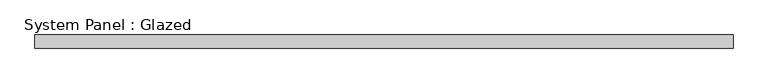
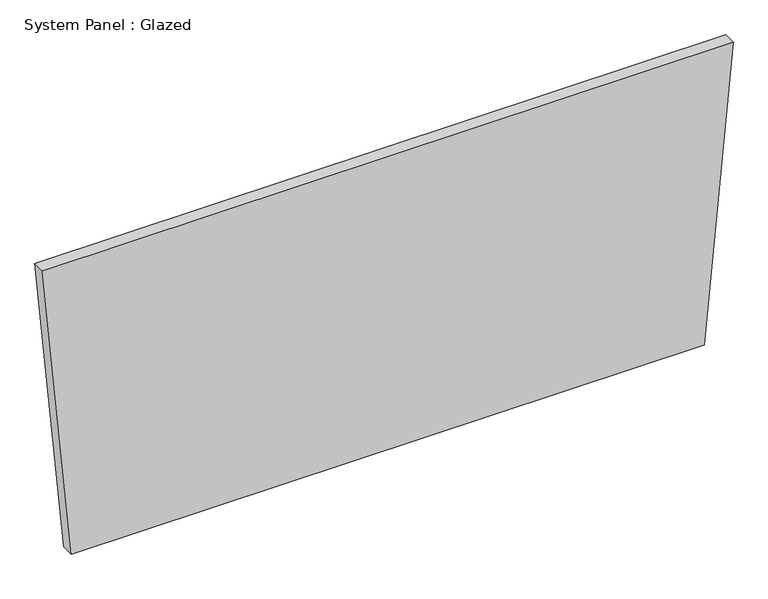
"""IFC4 building model written with IfcOpenShell, lengths in millimetres: plate geometry, System Panel : Glazed."""

from ifc_helpers import new_model, si_unit, frame, origin, place, context, project, spatial, polyline, outline, extrude, source, transform, mapped, element, save


def system_panel_glazed_fbbb24ac(model_context):
    return source(origin(), model_context, "Body", "SweptSolid", [
        extrude(outline(polyline([(0.0, -618.6363794), (0.0, 618.6363794), (606.9410625, 675.510861), (606.9410625, -675.510861), (0.0, -618.6363794)])), frame((0.0, -44.45, 0.0), z_axis=(0.0, 1.0, 0.0), x_axis=(0.0, 0.0, 1.0)), (0.0, 0.0, 1.0), 25.4),
    ])


if __name__ == "__main__":
    model = new_model("IFC4")
    model_context = context("Model", 3, world=origin())
    ifc_project = project(units=[si_unit("LENGTHUNIT", "METRE", prefix="MILLI")], contexts=[model_context])
    site = spatial("IfcSite", under=ifc_project)
    building = spatial("IfcBuilding", under=site)
    placement = place(None, origin())
    system_panel_glazed_shape = system_panel_glazed_fbbb24ac(model_context)
    element("IfcPlate", 1, ObjectType="System Panel : Glazed", at=placement, inside=building, context=model_context, shape_type="MappedRepresentation", body=[
        mapped(system_panel_glazed_shape, transform((0.0, 0.0, 0.0), x_axis=(1.0, 0.0, 0.0), y_axis=(0.0, 1.0, 0.0), z_axis=(0.0, 0.0, 1.0))),
    ])
    save(model, "model.ifc")
